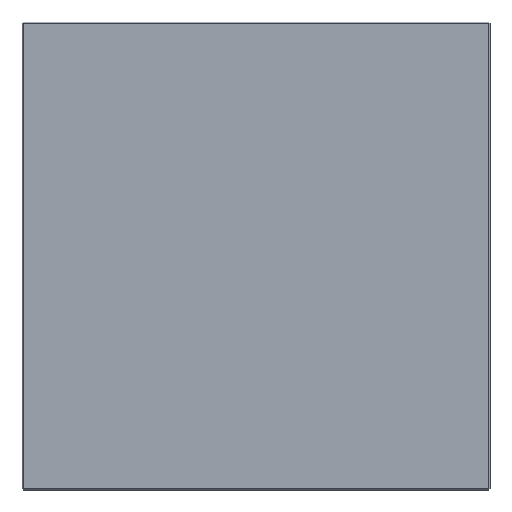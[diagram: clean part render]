
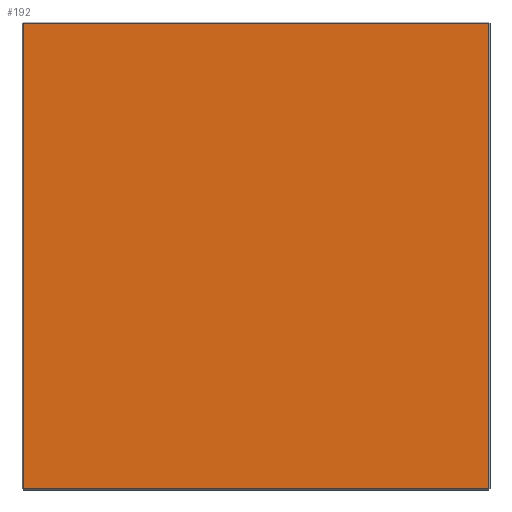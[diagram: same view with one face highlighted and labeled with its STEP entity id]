
A CAD part, front view. The second image highlights one B-rep face of the part: STEP entity #192.
In plain terms, the highlighted planar face has unit normal (0, -1, 0).
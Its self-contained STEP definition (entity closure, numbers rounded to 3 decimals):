
#4 = FACE_OUTER_BOUND ( 'NONE', #376, .T. ) ;
#45 = VECTOR ( 'NONE', #313, 1000. ) ;
#52 = ORIENTED_EDGE ( 'NONE', *, *, #392, .T. ) ;
#62 = PLANE ( 'NONE',  #121 ) ;
#79 = CARTESIAN_POINT ( 'NONE',  ( -197., 0., 0. ) ) ;
#80 = CARTESIAN_POINT ( 'NONE',  ( 197., 0., 0. ) ) ;
#84 = DIRECTION ( 'NONE',  ( 0., 0., 1. ) ) ;
#87 = CARTESIAN_POINT ( 'NONE',  ( 0., 0., 0. ) ) ;
#88 = VERTEX_POINT ( 'NONE', #421 ) ;
#94 = DIRECTION ( 'NONE',  ( 0., 0., -1. ) ) ;
#105 = ORIENTED_EDGE ( 'NONE', *, *, #467, .T. ) ;
#106 = ORIENTED_EDGE ( 'NONE', *, *, #492, .T. ) ;
#110 = VERTEX_POINT ( 'NONE', #403 ) ;
#121 = AXIS2_PLACEMENT_3D ( 'NONE', #87, #125, #181 ) ;
#125 = DIRECTION ( 'NONE',  ( 0., 1., 0. ) ) ;
#141 = ORIENTED_EDGE ( 'NONE', *, *, #380, .T. ) ;
#181 = DIRECTION ( 'NONE',  ( 0., 0., 1. ) ) ;
#192 = ADVANCED_FACE ( 'NONE', ( #4 ), #62, .F. ) ;
#235 = CARTESIAN_POINT ( 'NONE',  ( -197., 0., 197. ) ) ;
#267 = CARTESIAN_POINT ( 'NONE',  ( 0., 0., 197. ) ) ;
#275 = DIRECTION ( 'NONE',  ( -1., 0., 0. ) ) ;
#307 = LINE ( 'NONE', #80, #456 ) ;
#313 = DIRECTION ( 'NONE',  ( 1., 0., 0. ) ) ;
#326 = CARTESIAN_POINT ( 'NONE',  ( 0., 0., -197. ) ) ;
#337 = CARTESIAN_POINT ( 'NONE',  ( -197., 0., -197. ) ) ;
#376 = EDGE_LOOP ( 'NONE', ( #141, #105, #52, #106 ) ) ;
#380 = EDGE_CURVE ( 'NONE', #110, #88, #307, .T. ) ;
#392 = EDGE_CURVE ( 'NONE', #457, #505, #482, .T. ) ;
#403 = CARTESIAN_POINT ( 'NONE',  ( 197., 0., -197. ) ) ;
#410 = LINE ( 'NONE', #267, #605 ) ;
#421 = CARTESIAN_POINT ( 'NONE',  ( 197., 0., 197. ) ) ;
#423 = LINE ( 'NONE', #326, #45 ) ;
#456 = VECTOR ( 'NONE', #84, 1000. ) ;
#457 = VERTEX_POINT ( 'NONE', #235 ) ;
#467 = EDGE_CURVE ( 'NONE', #88, #457, #410, .T. ) ;
#482 = LINE ( 'NONE', #79, #644 ) ;
#492 = EDGE_CURVE ( 'NONE', #505, #110, #423, .T. ) ;
#505 = VERTEX_POINT ( 'NONE', #337 ) ;
#605 = VECTOR ( 'NONE', #275, 1000. ) ;
#644 = VECTOR ( 'NONE', #94, 1000. ) ;
